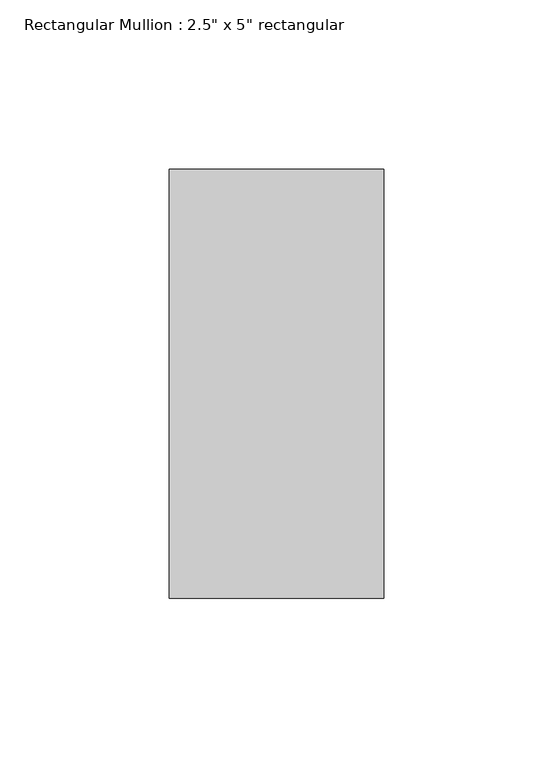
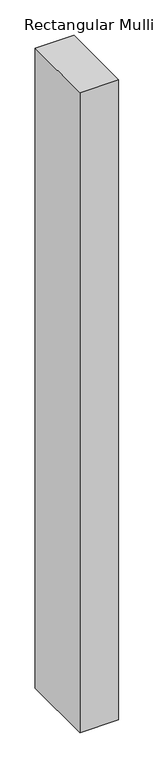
"""IFC4 building model written with IfcOpenShell, lengths in millimetres: member geometry."""

from ifc_helpers import new_model, si_unit, frame, origin, place, context, project, spatial, polyline, outline, extrude, source, transform, mapped, element, save


def member_365d1a59(model_context):
    return source(origin(), model_context, "Body", "SweptSolid", [
        extrude(outline(polyline([(0.0, 63.5), (0.0, -63.5), (-63.5, -63.5), (-63.5, 63.5), (0.0, 63.5)])), frame((0.0, 0.0, -1108.075), z_axis=(0.0, 0.0, 1.0), x_axis=(1.0, 0.0, 0.0)), (0.0, 0.0, 1.0), 1108.075),
    ])


if __name__ == "__main__":
    model = new_model("IFC4")
    model_context = context("Model", 3, world=origin())
    ifc_project = project(units=[si_unit("LENGTHUNIT", "METRE", prefix="MILLI")], contexts=[model_context])
    site = spatial("IfcSite", under=ifc_project)
    building = spatial("IfcBuilding", under=site)
    placement = place(None, origin())
    member_shape = member_365d1a59(model_context)
    element("IfcMember", 1, ObjectType="Rectangular Mullion : 2.5\" x 5\" rectangular", at=placement, inside=building, context=model_context, shape_type="MappedRepresentation", body=[
        mapped(member_shape, transform((0.0, 0.0, 0.0), x_axis=(1.0, 0.0, 0.0), y_axis=(0.0, 1.0, 0.0), z_axis=(0.0, 0.0, 1.0))),
    ])
    save(model, "model.ifc")
